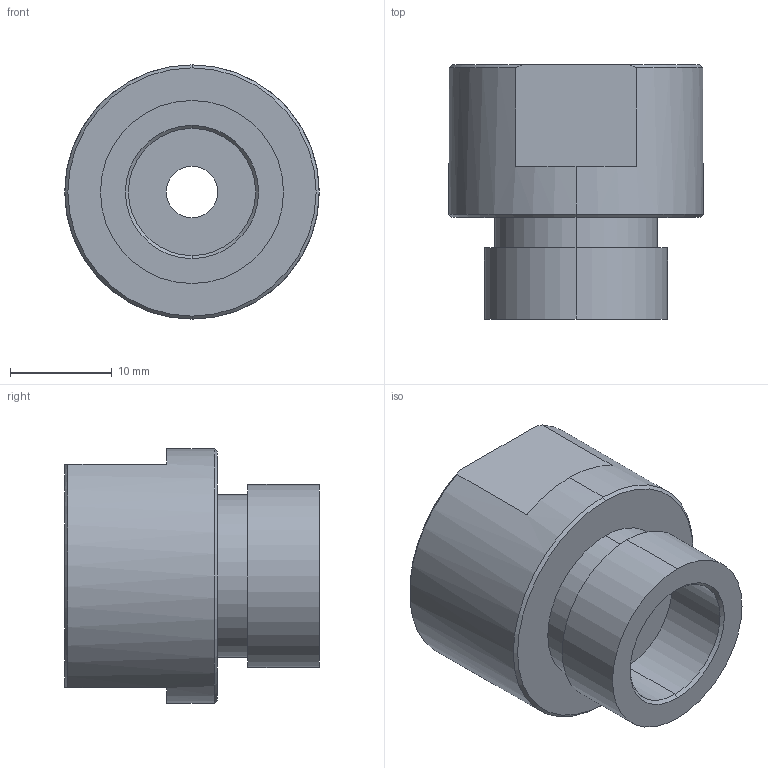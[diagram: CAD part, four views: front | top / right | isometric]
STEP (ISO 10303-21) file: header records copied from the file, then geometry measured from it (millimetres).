
FILE_DESCRIPTION (( 'STEP AP203' ), '1' );
FILE_NAME ('125MO-5.1.STEP', '2022-04-13T06:50:40', ( '' ), ( '' ), 'SwSTEP 2.0', 'SolidWorks 2015', '' );
FILE_SCHEMA (( 'CONFIG_CONTROL_DESIGN' ));
Length unit declared in the file: millimetre
Products named in the file (2): 125MO-5.1
Bounding box: 25 x 25 x 25 mm (x, y, z)
Volume: 8272.6 mm3; surface area: 3295.3 mm2
Topology: 1 solids, 1 shells, 25 faces, 56 edges, 36 vertices
Faces by surface type: cylinder 10, plane 9, cone 6
Entity records: 871 total; most frequent: DIRECTION 136, CARTESIAN_POINT 131, ORIENTED_EDGE 112, AXIS2_PLACEMENT_3D 57, EDGE_CURVE 56, VERTEX_POINT 36, EDGE_LOOP 30, CIRCLE 30
